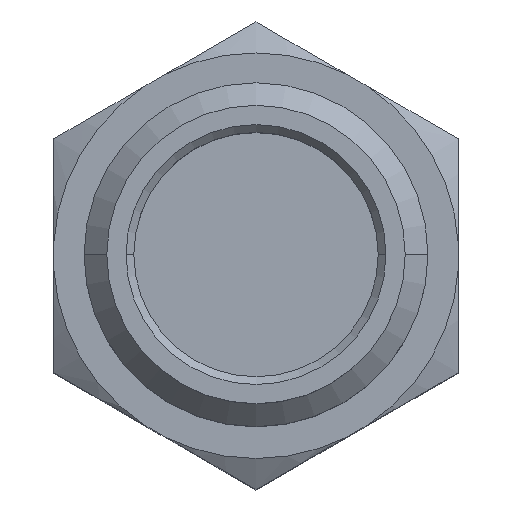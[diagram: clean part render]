
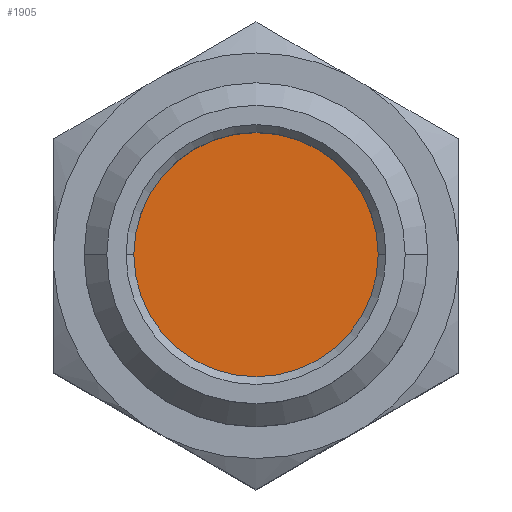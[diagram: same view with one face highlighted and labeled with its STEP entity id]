
A CAD part, top view. The second image highlights one B-rep face of the part: STEP entity #1905.
In plain terms, the highlighted planar face has unit normal (0, 0, 1).
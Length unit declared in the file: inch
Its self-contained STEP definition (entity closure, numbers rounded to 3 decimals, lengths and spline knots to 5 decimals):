
#116 = AXIS2_PLACEMENT_3D ( 'NONE', #1642, #238, #1875 ) ;
#144 = ORIENTED_EDGE ( 'NONE', *, *, #2779, .T. ) ;
#223 = PLANE ( 'NONE',  #116 ) ;
#238 = DIRECTION ( 'NONE',  ( 0., 0., -1. ) ) ;
#485 = FACE_OUTER_BOUND ( 'NONE', #1816, .T. ) ;
#514 = DIRECTION ( 'NONE',  ( 0., 0., 1. ) ) ;
#607 = CARTESIAN_POINT ( 'NONE',  ( 0., 0., -0.12 ) ) ;
#847 = DIRECTION ( 'NONE',  ( 1., 0., 0. ) ) ;
#1045 = CIRCLE ( 'NONE', #2316, 0.09415 ) ;
#1432 = CARTESIAN_POINT ( 'NONE',  ( 0.09415, 0., -0.12 ) ) ;
#1642 = CARTESIAN_POINT ( 'NONE',  ( 0., 0.04725, -0.12 ) ) ;
#1693 = EDGE_CURVE ( 'NONE', #2572, #2753, #2913, .T. ) ;
#1816 = EDGE_LOOP ( 'NONE', ( #144, #2359 ) ) ;
#1875 = DIRECTION ( 'NONE',  ( -1., 0., 0. ) ) ;
#1905 = ADVANCED_FACE ( 'NONE', ( #485 ), #223, .F. ) ;
#1917 = CARTESIAN_POINT ( 'NONE',  ( 0., 0., -0.12 ) ) ;
#2146 = CARTESIAN_POINT ( 'NONE',  ( -0.09415, 0., -0.12 ) ) ;
#2157 = DIRECTION ( 'NONE',  ( 1., 0., 0. ) ) ;
#2277 = DIRECTION ( 'NONE',  ( 0., 0., 1. ) ) ;
#2316 = AXIS2_PLACEMENT_3D ( 'NONE', #1917, #514, #2157 ) ;
#2359 = ORIENTED_EDGE ( 'NONE', *, *, #1693, .T. ) ;
#2572 = VERTEX_POINT ( 'NONE', #2146 ) ;
#2753 = VERTEX_POINT ( 'NONE', #1432 ) ;
#2779 = EDGE_CURVE ( 'NONE', #2753, #2572, #1045, .T. ) ;
#2913 = CIRCLE ( 'NONE', #2952, 0.09415 ) ;
#2952 = AXIS2_PLACEMENT_3D ( 'NONE', #607, #2277, #847 ) ;
